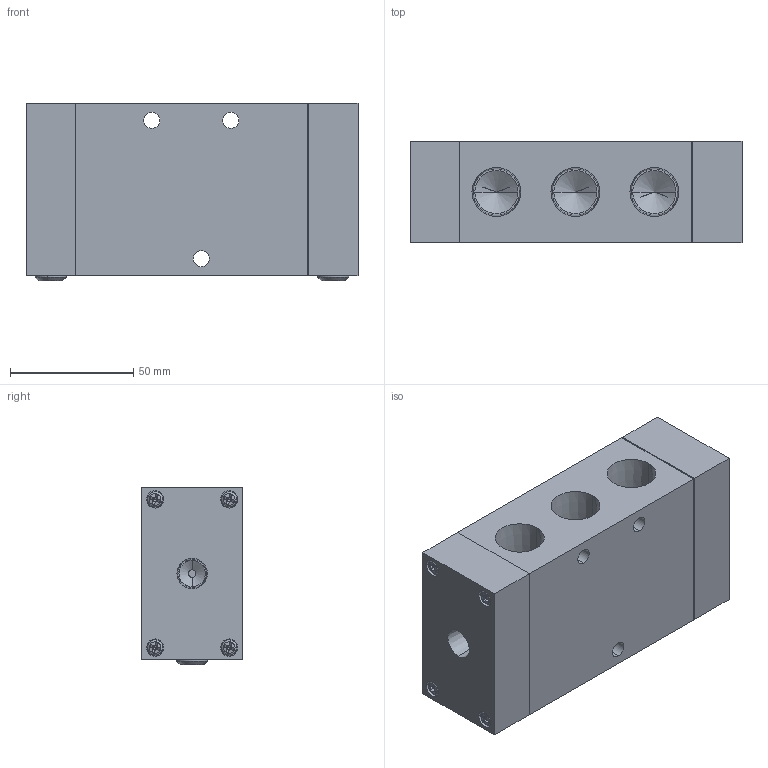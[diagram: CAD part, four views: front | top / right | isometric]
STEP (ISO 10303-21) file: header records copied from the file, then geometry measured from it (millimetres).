
FILE_DESCRIPTION (( 'STEP AP203' ), '1' );
FILE_NAME ('VP2410-04.STEP', '2016-01-13T18:41:03', ( '' ), ( '' ), 'SwSTEP 2.0', 'SolidWorks 2014', '' );
FILE_SCHEMA (( 'CONFIG_CONTROL_DESIGN' ));
Length unit declared in the file: millimetre
Products named in the file (7): VS2410-1=04; 止付1-4; M4; VS2410-3; VP2410-04; VS2410-MARK; VS2410-2
Assembly tree (15 placements, depth 2):
  VP2410-04
    VS2410-2
    VS2410-3  x2
    VS2410-MARK
    M4  x8
    止付1-4  x2
    VS2410-1=04
Bounding box: 134.5 x 41.15 x 72 mm (x, y, z)
Volume: 340455 mm3; surface area: 69600.3 mm2
Topology: 24 solids, 24 shells, 736 faces, 1818 edges, 1145 vertices
Faces by surface type: plane 401, cone 120, cylinder 97, bspline 66, torus 32, sphere 20
Entity records: 16977 total; most frequent: CARTESIAN_POINT 5916, ORIENTED_EDGE 2136, DIRECTION 1906, EDGE_CURVE 1068, VECTOR 726, LINE 726, VERTEX_POINT 704, AXIS2_PLACEMENT_3D 590
